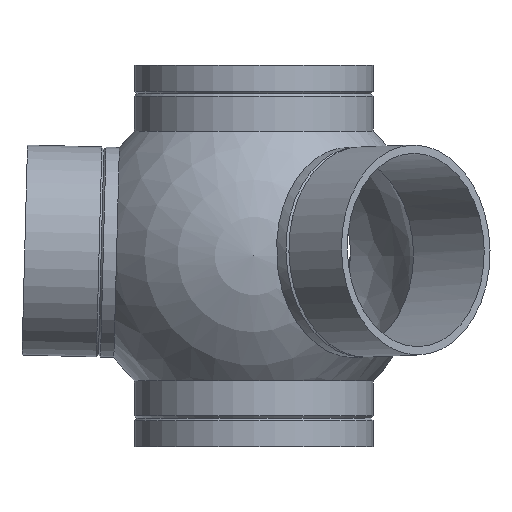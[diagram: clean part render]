
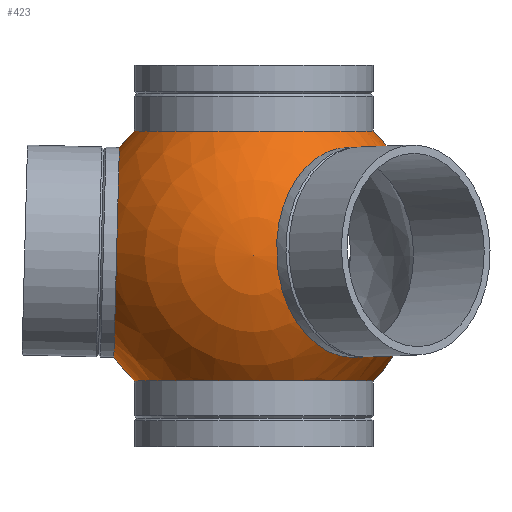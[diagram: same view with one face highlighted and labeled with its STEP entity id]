
A CAD part, left-side view. The second image highlights one B-rep face of the part: STEP entity #423.
In plain terms, the highlighted spherical face has radius 90.5 mm.
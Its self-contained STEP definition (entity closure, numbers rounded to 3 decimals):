
#14=SPHERICAL_SURFACE('',#493,90.5);
#72=FACE_BOUND('',#169,.T.);
#73=FACE_BOUND('',#170,.T.);
#74=FACE_BOUND('',#171,.T.);
#75=FACE_BOUND('',#172,.T.);
#104=FACE_OUTER_BOUND('',#168,.T.);
#168=EDGE_LOOP('',(#343));
#169=EDGE_LOOP('',(#344));
#170=EDGE_LOOP('',(#345));
#171=EDGE_LOOP('',(#346));
#172=EDGE_LOOP('',(#347));
#185=CIRCLE('',#445,55.);
#186=CIRCLE('',#447,55.);
#192=CIRCLE('',#460,55.);
#204=CIRCLE('',#482,62.5);
#209=CIRCLE('',#492,62.5);
#220=VERTEX_POINT('',#659);
#221=VERTEX_POINT('',#662);
#227=VERTEX_POINT('',#681);
#239=VERTEX_POINT('',#715);
#244=VERTEX_POINT('',#730);
#255=EDGE_CURVE('',#220,#220,#185,.T.);
#256=EDGE_CURVE('',#221,#221,#186,.T.);
#262=EDGE_CURVE('',#227,#227,#192,.T.);
#274=EDGE_CURVE('',#239,#239,#204,.T.);
#279=EDGE_CURVE('',#244,#244,#209,.T.);
#343=ORIENTED_EDGE('',*,*,#255,.T.);
#344=ORIENTED_EDGE('',*,*,#256,.T.);
#345=ORIENTED_EDGE('',*,*,#262,.T.);
#346=ORIENTED_EDGE('',*,*,#274,.T.);
#347=ORIENTED_EDGE('',*,*,#279,.T.);
#423=ADVANCED_FACE('',(#104,#72,#73,#74,#75),#14,.T.);
#445=AXIS2_PLACEMENT_3D('',#660,#531,#532);
#447=AXIS2_PLACEMENT_3D('',#663,#535,#536);
#460=AXIS2_PLACEMENT_3D('',#682,#561,#562);
#482=AXIS2_PLACEMENT_3D('',#716,#605,#606);
#492=AXIS2_PLACEMENT_3D('',#731,#625,#626);
#493=AXIS2_PLACEMENT_3D('',#732,#627,#628);
#531=DIRECTION('center_axis',(-1.,0.,
-0.026));
#532=DIRECTION('ref_axis',(0.,-1.,0.));
#535=DIRECTION('center_axis',(0.707,0.707,-0.026));
#536=DIRECTION('ref_axis',(-0.707,0.707,0.));
#561=DIRECTION('center_axis',(0.,-1.,
-0.026));
#562=DIRECTION('ref_axis',(1.,0.,0.));
#605=DIRECTION('center_axis',(0.,0.,
1.));
#606=DIRECTION('ref_axis',(0.,-1.,0.));
#625=DIRECTION('center_axis',(0.,0.,
-1.));
#626=DIRECTION('ref_axis',(0.,-1.,0.));
#627=DIRECTION('center_axis',(-1.,0.,0.));
#628=DIRECTION('ref_axis',(0.,-1.,0.));
#659=CARTESIAN_POINT('',(71.845,55.,1.881));
#660=CARTESIAN_POINT('Origin',(71.845,0.,
1.881));
#662=CARTESIAN_POINT('',(-11.911,-89.693,1.881));
#663=CARTESIAN_POINT('Origin',(-50.802,-50.802,1.881));
#681=CARTESIAN_POINT('',(-55.,71.845,1.881));
#682=CARTESIAN_POINT('Origin',(0.,71.845,1.881));
#715=CARTESIAN_POINT('',(0.,62.5,-65.452));
#716=CARTESIAN_POINT('Origin',(0.,0.,
-65.452));
#730=CARTESIAN_POINT('',(0.,62.5,65.452));
#731=CARTESIAN_POINT('Origin',(0.,0.,
65.452));
#732=CARTESIAN_POINT('Origin',(0.,0.,0.));
